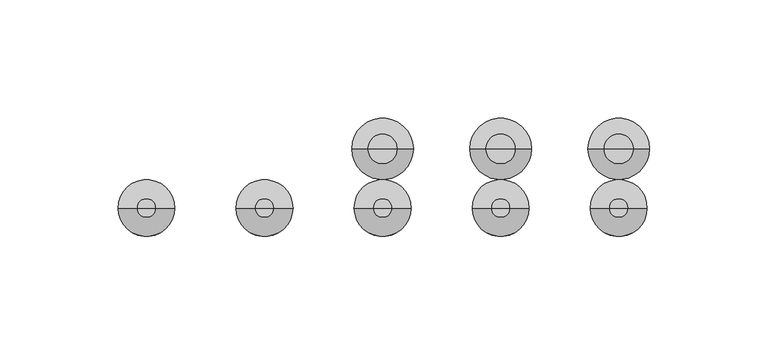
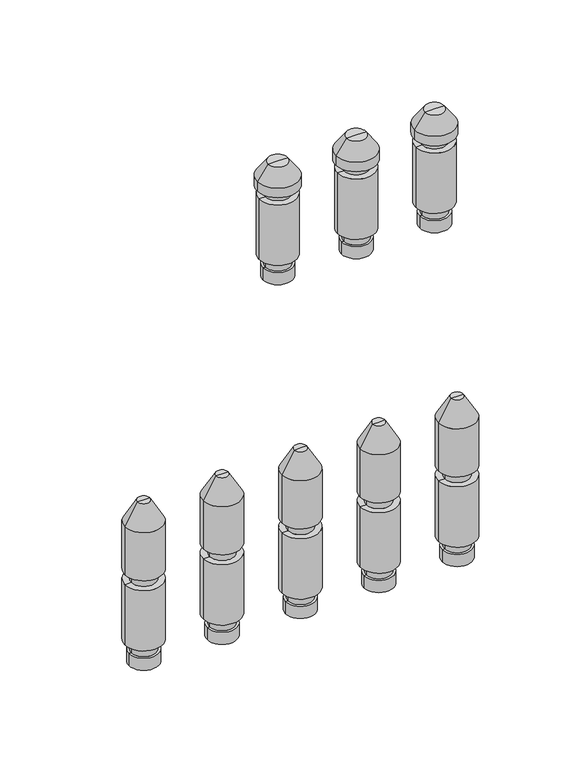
"""IFC4 building model written with IfcOpenShell, lengths in millimetres: valve geometry."""

from ifc_helpers import new_model, si_unit, frame, origin, place, context, project, spatial, polyline, circle_curve, source, transform, mapped, element, save
from ifc_brep_helpers import plane_surface, cylinder_surface, revolved_surface, advanced_brep


def valve_d1a48dd4(model_context):
    return source(origin(), model_context, "Body", "AdvancedBrep", [
        advanced_brep(
        [(328.5, 0.0, -35.11267), (347.5, 0.0, -35.11267), (338.0, 0.0, -35.11267), (328.5, 0.0, -27.0369646), (347.5, 0.0, -27.0369646), (330.0, 0.0, -27.0369646), (346.0, 0.0, -27.0369646), (330.0, 0.0, -20.330253), (346.0, 0.0, -20.330253), (326.0, 0.0, -20.330253), (350.0, 0.0, -20.330253), (326.0, 0.0, 20.330253), (350.0, 0.0, 20.330253), (330.0, 0.0, 20.330253), (346.0, 0.0, 20.330253), (330.0, 0.0, 27.0474786), (346.0, 0.0, 27.0474786), (326.0, 0.0, 27.0474786), (350.0, 0.0, 27.0474786), (326.0, 0.0, 59.4084325), (350.0, 0.0, 59.4084325), (334.0, 0.0, 73.264839), (342.0, 0.0, 73.264839), (338.0, 0.0, 73.264839)],
        [
            (0, 1, circle_curve(frame((338.0, 0.0, -35.11267), z_axis=(0.0, 0.0, -1.0), x_axis=(1.0, 0.0, 0.0)), 9.5)),
            (1, 2),
            (2, 0),
            (1, 0, circle_curve(frame((338.0, 0.0, -35.11267), z_axis=(0.0, 0.0, -1.0), x_axis=(1.0, 0.0, 0.0)), 9.5)),
            (3, 4, circle_curve(frame((338.0, 0.0, -27.0369646), z_axis=(0.0, 0.0, -1.0), x_axis=(1.0, 0.0, 0.0)), 9.5)),
            (4, 1),
            (0, 3),
            (4, 3, circle_curve(frame((338.0, 0.0, -27.0369646), z_axis=(0.0, 0.0, -1.0), x_axis=(1.0, 0.0, 0.0)), 9.5)),
            (5, 6, circle_curve(frame((338.0, 0.0, -27.0369646), z_axis=(0.0, 0.0, -1.0), x_axis=(1.0, 0.0, 0.0)), 8.0)),
            (6, 4),
            (3, 5),
            (6, 5, circle_curve(frame((338.0, 0.0, -27.0369646), z_axis=(0.0, 0.0, -1.0), x_axis=(1.0, 0.0, 0.0)), 8.0)),
            (7, 8, circle_curve(frame((338.0, 0.0, -20.330253), z_axis=(0.0, 0.0, -1.0), x_axis=(1.0, 0.0, 0.0)), 8.0)),
            (8, 6),
            (5, 7),
            (8, 7, circle_curve(frame((338.0, 0.0, -20.330253), z_axis=(0.0, 0.0, -1.0), x_axis=(1.0, 0.0, 0.0)), 8.0)),
            (9, 10, circle_curve(frame((338.0, 0.0, -20.330253), z_axis=(0.0, 0.0, -1.0), x_axis=(1.0, 0.0, 0.0)), 12.0)),
            (10, 8),
            (7, 9),
            (10, 9, circle_curve(frame((338.0, 0.0, -20.330253), z_axis=(0.0, 0.0, -1.0), x_axis=(1.0, 0.0, 0.0)), 12.0)),
            (11, 12, circle_curve(frame((338.0, 0.0, 20.330253), z_axis=(0.0, 0.0, -1.0), x_axis=(1.0, 0.0, 0.0)), 12.0)),
            (12, 10),
            (9, 11),
            (12, 11, circle_curve(frame((338.0, 0.0, 20.330253), z_axis=(0.0, 0.0, -1.0), x_axis=(1.0, 0.0, 0.0)), 12.0)),
            (13, 14, circle_curve(frame((338.0, 0.0, 20.330253), z_axis=(0.0, 0.0, -1.0), x_axis=(1.0, 0.0, 0.0)), 8.0)),
            (14, 12),
            (11, 13),
            (14, 13, circle_curve(frame((338.0, 0.0, 20.330253), z_axis=(0.0, 0.0, -1.0), x_axis=(1.0, 0.0, 0.0)), 8.0)),
            (15, 16, circle_curve(frame((338.0, 0.0, 27.0474786), z_axis=(0.0, 0.0, -1.0), x_axis=(1.0, 0.0, 0.0)), 8.0)),
            (16, 14),
            (13, 15),
            (16, 15, circle_curve(frame((338.0, 0.0, 27.0474786), z_axis=(0.0, 0.0, -1.0), x_axis=(1.0, 0.0, 0.0)), 8.0)),
            (17, 18, circle_curve(frame((338.0, 0.0, 27.0474786), z_axis=(0.0, 0.0, -1.0), x_axis=(1.0, 0.0, 0.0)), 12.0)),
            (18, 16),
            (15, 17),
            (18, 17, circle_curve(frame((338.0, 0.0, 27.0474786), z_axis=(0.0, 0.0, -1.0), x_axis=(1.0, 0.0, 0.0)), 12.0)),
            (19, 20, circle_curve(frame((338.0, 0.0, 59.4084325), z_axis=(0.0, 0.0, -1.0), x_axis=(1.0, 0.0, 0.0)), 12.0)),
            (20, 18),
            (17, 19),
            (20, 19, circle_curve(frame((338.0, 0.0, 59.4084325), z_axis=(0.0, 0.0, -1.0), x_axis=(1.0, 0.0, 0.0)), 12.0)),
            (21, 22, circle_curve(frame((338.0, 0.0, 73.264839), z_axis=(0.0, 0.0, -1.0), x_axis=(1.0, 0.0, 0.0)), 4.0)),
            (22, 20),
            (19, 21),
            (22, 21, circle_curve(frame((338.0, 0.0, 73.264839), z_axis=(0.0, 0.0, -1.0), x_axis=(1.0, 0.0, 0.0)), 4.0)),
            (23, 22),
            (21, 23),
        ],
        [
            plane_surface(frame((338.0, 0.0, -35.11267), z_axis=(0.0, 0.0, -1.0), x_axis=(1.0, 0.0, 0.0))),
            cylinder_surface(frame((338.0, 0.0, 58.264839), z_axis=(0.0, 0.0, 1.0), x_axis=(1.0, 0.0, 0.0)), 9.5),
            plane_surface(frame((338.0, 0.0, -27.0369646), z_axis=(0.0, 0.0, 1.0), x_axis=(1.0, 0.0, 0.0))),
            cylinder_surface(frame((338.0, 0.0, 58.264839), z_axis=(0.0, 0.0, 1.0), x_axis=(1.0, 0.0, 0.0)), 8.0),
            plane_surface(frame((338.0, 0.0, -20.330253), z_axis=(0.0, 0.0, -1.0), x_axis=(1.0, 0.0, 0.0))),
            cylinder_surface(frame((338.0, 0.0, 58.264839), z_axis=(0.0, 0.0, 1.0), x_axis=(1.0, 0.0, 0.0)), 12.0),
            plane_surface(frame((338.0, 0.0, 20.330253), z_axis=(0.0, 0.0, 1.0), x_axis=(1.0, 0.0, 0.0))),
            plane_surface(frame((338.0, 0.0, 27.0474786), z_axis=(0.0, 0.0, -1.0), x_axis=(1.0, 0.0, 0.0))),
            revolved_surface(polyline([(350.0, 0.0, 59.4084325), (342.0, 0.0, 73.264839)]), (338.0, 0.0, 58.264839), (0.0, 0.0, 1.0)),
            plane_surface(frame((338.0, 0.0, 73.264839), z_axis=(0.0, 0.0, 1.0), x_axis=(1.0, 0.0, 0.0))),
        ],
        [
            (0, [[1, 2, 3]]),
            (0, [[4, -3, -2]]),
            (1, [[5, 6, -1, 7]]),
            (1, [[8, -7, -4, -6]]),
            (2, [[9, 10, -5, 11]]),
            (2, [[12, -11, -8, -10]]),
            (3, [[13, 14, -9, 15]]),
            (3, [[16, -15, -12, -14]]),
            (4, [[17, 18, -13, 19]]),
            (4, [[20, -19, -16, -18]]),
            (5, [[21, 22, -17, 23]]),
            (5, [[24, -23, -20, -22]]),
            (6, [[25, 26, -21, 27]]),
            (6, [[28, -27, -24, -26]]),
            (3, [[29, 30, -25, 31]]),
            (3, [[32, -31, -28, -30]]),
            (7, [[33, 34, -29, 35]]),
            (7, [[36, -35, -32, -34]]),
            (5, [[37, 38, -33, 39]]),
            (5, [[40, -39, -36, -38]]),
            (8, [[41, 42, -37, 43]]),
            (8, [[44, -43, -40, -42]]),
            (9, [[45, -41, 46]]),
            (9, [[-46, -44, -45]]),
        ],
    ),
        advanced_brep(
        [(328.5, 25.0, 174.88733), (347.5, 25.0, 174.88733), (338.0, 25.0, 174.88733), (328.5, 25.0, 182.9630354), (347.5, 25.0, 182.9630354), (330.0, 25.0, 182.9630354), (346.0, 25.0, 182.9630354), (330.0, 25.0, 189.669747), (346.0, 25.0, 189.669747), (326.0, 25.0, 189.669747), (350.0, 25.0, 189.669747), (326.0, 25.0, 230.330253), (350.0, 25.0, 230.330253), (330.0, 25.0, 230.330253), (346.0, 25.0, 230.330253), (330.0, 25.0, 236.0474786), (346.0, 25.0, 236.0474786), (325.0, 25.0, 236.0474786), (351.0, 25.0, 236.0474786), (325.0, 25.0, 242.337955), (351.0, 25.0, 242.337955), (331.6551779, 25.0, 251.842534), (344.3448221, 25.0, 251.842534), (338.0, 25.0, 251.842534)],
        [
            (0, 1, circle_curve(frame((338.0, 25.0, 174.88733), z_axis=(0.0, 0.0, -1.0), x_axis=(1.0, 0.0, 0.0)), 9.5)),
            (1, 2),
            (2, 0),
            (1, 0, circle_curve(frame((338.0, 25.0, 174.88733), z_axis=(0.0, 0.0, -1.0), x_axis=(1.0, 0.0, 0.0)), 9.5)),
            (3, 4, circle_curve(frame((338.0, 25.0, 182.9630354), z_axis=(0.0, 0.0, -1.0), x_axis=(1.0, 0.0, 0.0)), 9.5)),
            (4, 1),
            (0, 3),
            (4, 3, circle_curve(frame((338.0, 25.0, 182.9630354), z_axis=(0.0, 0.0, -1.0), x_axis=(1.0, 0.0, 0.0)), 9.5)),
            (5, 6, circle_curve(frame((338.0, 25.0, 182.9630354), z_axis=(0.0, 0.0, -1.0), x_axis=(1.0, 0.0, 0.0)), 8.0)),
            (6, 4),
            (3, 5),
            (6, 5, circle_curve(frame((338.0, 25.0, 182.9630354), z_axis=(0.0, 0.0, -1.0), x_axis=(1.0, 0.0, 0.0)), 8.0)),
            (7, 8, circle_curve(frame((338.0, 25.0, 189.669747), z_axis=(0.0, 0.0, -1.0), x_axis=(1.0, 0.0, 0.0)), 8.0)),
            (8, 6),
            (5, 7),
            (8, 7, circle_curve(frame((338.0, 25.0, 189.669747), z_axis=(0.0, 0.0, -1.0), x_axis=(1.0, 0.0, 0.0)), 8.0)),
            (9, 10, circle_curve(frame((338.0, 25.0, 189.669747), z_axis=(0.0, 0.0, -1.0), x_axis=(1.0, 0.0, 0.0)), 12.0)),
            (10, 8),
            (7, 9),
            (10, 9, circle_curve(frame((338.0, 25.0, 189.669747), z_axis=(0.0, 0.0, -1.0), x_axis=(1.0, 0.0, 0.0)), 12.0)),
            (11, 12, circle_curve(frame((338.0, 25.0, 230.330253), z_axis=(0.0, 0.0, -1.0), x_axis=(1.0, 0.0, 0.0)), 12.0)),
            (12, 10),
            (9, 11),
            (12, 11, circle_curve(frame((338.0, 25.0, 230.330253), z_axis=(0.0, 0.0, -1.0), x_axis=(1.0, 0.0, 0.0)), 12.0)),
            (13, 14, circle_curve(frame((338.0, 25.0, 230.330253), z_axis=(0.0, 0.0, -1.0), x_axis=(1.0, 0.0, 0.0)), 8.0)),
            (14, 12),
            (11, 13),
            (14, 13, circle_curve(frame((338.0, 25.0, 230.330253), z_axis=(0.0, 0.0, -1.0), x_axis=(1.0, 0.0, 0.0)), 8.0)),
            (15, 16, circle_curve(frame((338.0, 25.0, 236.0474786), z_axis=(0.0, 0.0, -1.0), x_axis=(1.0, 0.0, 0.0)), 8.0)),
            (16, 14),
            (13, 15),
            (16, 15, circle_curve(frame((338.0, 25.0, 236.0474786), z_axis=(0.0, 0.0, -1.0), x_axis=(1.0, 0.0, 0.0)), 8.0)),
            (17, 18, circle_curve(frame((338.0, 25.0, 236.0474786), z_axis=(0.0, 0.0, -1.0), x_axis=(1.0, 0.0, 0.0)), 13.0)),
            (18, 16),
            (15, 17),
            (18, 17, circle_curve(frame((338.0, 25.0, 236.0474786), z_axis=(0.0, 0.0, -1.0), x_axis=(1.0, 0.0, 0.0)), 13.0)),
            (19, 20, circle_curve(frame((338.0, 25.0, 242.337955), z_axis=(0.0, 0.0, -1.0), x_axis=(1.0, 0.0, 0.0)), 13.0)),
            (20, 18),
            (17, 19),
            (20, 19, circle_curve(frame((338.0, 25.0, 242.337955), z_axis=(0.0, 0.0, -1.0), x_axis=(1.0, 0.0, 0.0)), 13.0)),
            (21, 22, circle_curve(frame((338.0, 25.0, 251.842534), z_axis=(0.0, 0.0, -1.0), x_axis=(1.0, 0.0, 0.0)), 6.3448221)),
            (22, 20),
            (19, 21),
            (22, 21, circle_curve(frame((338.0, 25.0, 251.842534), z_axis=(0.0, 0.0, -1.0), x_axis=(1.0, 0.0, 0.0)), 6.3448221)),
            (23, 22),
            (21, 23),
        ],
        [
            plane_surface(frame((338.0, 25.0, 174.88733), z_axis=(0.0, 0.0, -1.0), x_axis=(1.0, 0.0, 0.0))),
            cylinder_surface(frame((338.0, 25.0, 247.7026565), z_axis=(0.0, 0.0, 1.0), x_axis=(1.0, 0.0, 0.0)), 9.5),
            plane_surface(frame((338.0, 25.0, 182.9630354), z_axis=(0.0, 0.0, 1.0), x_axis=(1.0, 0.0, 0.0))),
            cylinder_surface(frame((338.0, 25.0, 247.7026565), z_axis=(0.0, 0.0, 1.0), x_axis=(1.0, 0.0, 0.0)), 8.0),
            plane_surface(frame((338.0, 25.0, 189.669747), z_axis=(0.0, 0.0, -1.0), x_axis=(1.0, 0.0, 0.0))),
            cylinder_surface(frame((338.0, 25.0, 247.7026565), z_axis=(0.0, 0.0, 1.0), x_axis=(1.0, 0.0, 0.0)), 12.0),
            plane_surface(frame((338.0, 25.0, 230.330253), z_axis=(0.0, 0.0, 1.0), x_axis=(1.0, 0.0, 0.0))),
            plane_surface(frame((338.0, 25.0, 236.0474786), z_axis=(0.0, 0.0, -1.0), x_axis=(1.0, 0.0, 0.0))),
            cylinder_surface(frame((338.0, 25.0, 247.7026565), z_axis=(0.0, 0.0, 1.0), x_axis=(1.0, 0.0, 0.0)), 13.0),
            revolved_surface(polyline([(351.0, 25.0, 242.337955), (344.3448221, 25.0, 251.842534)]), (338.0, 25.0, 247.7026565), (0.0, 0.0, 1.0)),
            plane_surface(frame((338.0, 25.0, 251.842534), z_axis=(0.0, 0.0, 1.0), x_axis=(1.0, 0.0, 0.0))),
        ],
        [
            (0, [[1, 2, 3]]),
            (0, [[4, -3, -2]]),
            (1, [[5, 6, -1, 7]]),
            (1, [[8, -7, -4, -6]]),
            (2, [[9, 10, -5, 11]]),
            (2, [[12, -11, -8, -10]]),
            (3, [[13, 14, -9, 15]]),
            (3, [[16, -15, -12, -14]]),
            (4, [[17, 18, -13, 19]]),
            (4, [[20, -19, -16, -18]]),
            (5, [[21, 22, -17, 23]]),
            (5, [[24, -23, -20, -22]]),
            (6, [[25, 26, -21, 27]]),
            (6, [[28, -27, -24, -26]]),
            (3, [[29, 30, -25, 31]]),
            (3, [[32, -31, -28, -30]]),
            (7, [[33, 34, -29, 35]]),
            (7, [[36, -35, -32, -34]]),
            (8, [[37, 38, -33, 39]]),
            (8, [[40, -39, -36, -38]]),
            (9, [[41, 42, -37, 43]]),
            (9, [[44, -43, -40, -42]]),
            (10, [[45, -41, 46]]),
            (10, [[-46, -44, -45]]),
        ],
    ),
        advanced_brep(
        [(278.5, 0.0, -35.11267), (297.5, 0.0, -35.11267), (288.0, 0.0, -35.11267), (278.5, 0.0, -27.0369646), (297.5, 0.0, -27.0369646), (280.0, 0.0, -27.0369646), (296.0, 0.0, -27.0369646), (280.0, 0.0, -20.330253), (296.0, 0.0, -20.330253), (276.0, 0.0, -20.330253), (300.0, 0.0, -20.330253), (276.0, 0.0, 20.330253), (300.0, 0.0, 20.330253), (280.0, 0.0, 20.330253), (296.0, 0.0, 20.330253), (280.0, 0.0, 27.0474786), (296.0, 0.0, 27.0474786), (276.0, 0.0, 27.0474786), (300.0, 0.0, 27.0474786), (276.0, 0.0, 59.4084325), (300.0, 0.0, 59.4084325), (284.0, 0.0, 73.264839), (292.0, 0.0, 73.264839), (288.0, 0.0, 73.264839)],
        [
            (0, 1, circle_curve(frame((288.0, 0.0, -35.11267), z_axis=(0.0, 0.0, -1.0), x_axis=(1.0, 0.0, 0.0)), 9.5)),
            (1, 2),
            (2, 0),
            (1, 0, circle_curve(frame((288.0, 0.0, -35.11267), z_axis=(0.0, 0.0, -1.0), x_axis=(1.0, 0.0, 0.0)), 9.5)),
            (3, 4, circle_curve(frame((288.0, 0.0, -27.0369646), z_axis=(0.0, 0.0, -1.0), x_axis=(1.0, 0.0, 0.0)), 9.5)),
            (4, 1),
            (0, 3),
            (4, 3, circle_curve(frame((288.0, 0.0, -27.0369646), z_axis=(0.0, 0.0, -1.0), x_axis=(1.0, 0.0, 0.0)), 9.5)),
            (5, 6, circle_curve(frame((288.0, 0.0, -27.0369646), z_axis=(0.0, 0.0, -1.0), x_axis=(1.0, 0.0, 0.0)), 8.0)),
            (6, 4),
            (3, 5),
            (6, 5, circle_curve(frame((288.0, 0.0, -27.0369646), z_axis=(0.0, 0.0, -1.0), x_axis=(1.0, 0.0, 0.0)), 8.0)),
            (7, 8, circle_curve(frame((288.0, 0.0, -20.330253), z_axis=(0.0, 0.0, -1.0), x_axis=(1.0, 0.0, 0.0)), 8.0)),
            (8, 6),
            (5, 7),
            (8, 7, circle_curve(frame((288.0, 0.0, -20.330253), z_axis=(0.0, 0.0, -1.0), x_axis=(1.0, 0.0, 0.0)), 8.0)),
            (9, 10, circle_curve(frame((288.0, 0.0, -20.330253), z_axis=(0.0, 0.0, -1.0), x_axis=(1.0, 0.0, 0.0)), 12.0)),
            (10, 8),
            (7, 9),
            (10, 9, circle_curve(frame((288.0, 0.0, -20.330253), z_axis=(0.0, 0.0, -1.0), x_axis=(1.0, 0.0, 0.0)), 12.0)),
            (11, 12, circle_curve(frame((288.0, 0.0, 20.330253), z_axis=(0.0, 0.0, -1.0), x_axis=(1.0, 0.0, 0.0)), 12.0)),
            (12, 10),
            (9, 11),
            (12, 11, circle_curve(frame((288.0, 0.0, 20.330253), z_axis=(0.0, 0.0, -1.0), x_axis=(1.0, 0.0, 0.0)), 12.0)),
            (13, 14, circle_curve(frame((288.0, 0.0, 20.330253), z_axis=(0.0, 0.0, -1.0), x_axis=(1.0, 0.0, 0.0)), 8.0)),
            (14, 12),
            (11, 13),
            (14, 13, circle_curve(frame((288.0, 0.0, 20.330253), z_axis=(0.0, 0.0, -1.0), x_axis=(1.0, 0.0, 0.0)), 8.0)),
            (15, 16, circle_curve(frame((288.0, 0.0, 27.0474786), z_axis=(0.0, 0.0, -1.0), x_axis=(1.0, 0.0, 0.0)), 8.0)),
            (16, 14),
            (13, 15),
            (16, 15, circle_curve(frame((288.0, 0.0, 27.0474786), z_axis=(0.0, 0.0, -1.0), x_axis=(1.0, 0.0, 0.0)), 8.0)),
            (17, 18, circle_curve(frame((288.0, 0.0, 27.0474786), z_axis=(0.0, 0.0, -1.0), x_axis=(1.0, 0.0, 0.0)), 12.0)),
            (18, 16),
            (15, 17),
            (18, 17, circle_curve(frame((288.0, 0.0, 27.0474786), z_axis=(0.0, 0.0, -1.0), x_axis=(1.0, 0.0, 0.0)), 12.0)),
            (19, 20, circle_curve(frame((288.0, 0.0, 59.4084325), z_axis=(0.0, 0.0, -1.0), x_axis=(1.0, 0.0, 0.0)), 12.0)),
            (20, 18),
            (17, 19),
            (20, 19, circle_curve(frame((288.0, 0.0, 59.4084325), z_axis=(0.0, 0.0, -1.0), x_axis=(1.0, 0.0, 0.0)), 12.0)),
            (21, 22, circle_curve(frame((288.0, 0.0, 73.264839), z_axis=(0.0, 0.0, -1.0), x_axis=(1.0, 0.0, 0.0)), 4.0)),
            (22, 20),
            (19, 21),
            (22, 21, circle_curve(frame((288.0, 0.0, 73.264839), z_axis=(0.0, 0.0, -1.0), x_axis=(1.0, 0.0, 0.0)), 4.0)),
            (23, 22),
            (21, 23),
        ],
        [
            plane_surface(frame((288.0, 0.0, -35.11267), z_axis=(0.0, 0.0, -1.0), x_axis=(1.0, 0.0, 0.0))),
            cylinder_surface(frame((288.0, 0.0, 58.264839), z_axis=(0.0, 0.0, 1.0), x_axis=(1.0, 0.0, 0.0)), 9.5),
            plane_surface(frame((288.0, 0.0, -27.0369646), z_axis=(0.0, 0.0, 1.0), x_axis=(1.0, 0.0, 0.0))),
            cylinder_surface(frame((288.0, 0.0, 58.264839), z_axis=(0.0, 0.0, 1.0), x_axis=(1.0, 0.0, 0.0)), 8.0),
            plane_surface(frame((288.0, 0.0, -20.330253), z_axis=(0.0, 0.0, -1.0), x_axis=(1.0, 0.0, 0.0))),
            cylinder_surface(frame((288.0, 0.0, 58.264839), z_axis=(0.0, 0.0, 1.0), x_axis=(1.0, 0.0, 0.0)), 12.0),
            plane_surface(frame((288.0, 0.0, 20.330253), z_axis=(0.0, 0.0, 1.0), x_axis=(1.0, 0.0, 0.0))),
            plane_surface(frame((288.0, 0.0, 27.0474786), z_axis=(0.0, 0.0, -1.0), x_axis=(1.0, 0.0, 0.0))),
            revolved_surface(polyline([(300.0, 0.0, 59.4084325), (292.0, 0.0, 73.264839)]), (288.0, 0.0, 58.264839), (0.0, 0.0, 1.0)),
            plane_surface(frame((288.0, 0.0, 73.264839), z_axis=(0.0, 0.0, 1.0), x_axis=(1.0, 0.0, 0.0))),
        ],
        [
            (0, [[1, 2, 3]]),
            (0, [[4, -3, -2]]),
            (1, [[5, 6, -1, 7]]),
            (1, [[8, -7, -4, -6]]),
            (2, [[9, 10, -5, 11]]),
            (2, [[12, -11, -8, -10]]),
            (3, [[13, 14, -9, 15]]),
            (3, [[16, -15, -12, -14]]),
            (4, [[17, 18, -13, 19]]),
            (4, [[20, -19, -16, -18]]),
            (5, [[21, 22, -17, 23]]),
            (5, [[24, -23, -20, -22]]),
            (6, [[25, 26, -21, 27]]),
            (6, [[28, -27, -24, -26]]),
            (3, [[29, 30, -25, 31]]),
            (3, [[32, -31, -28, -30]]),
            (7, [[33, 34, -29, 35]]),
            (7, [[36, -35, -32, -34]]),
            (5, [[37, 38, -33, 39]]),
            (5, [[40, -39, -36, -38]]),
            (8, [[41, 42, -37, 43]]),
            (8, [[44, -43, -40, -42]]),
            (9, [[45, -41, 46]]),
            (9, [[-46, -44, -45]]),
        ],
    ),
        advanced_brep(
        [(228.5, 0.0, -35.11267), (247.5, 0.0, -35.11267), (238.0, 0.0, -35.11267), (228.5, 0.0, -27.0369646), (247.5, 0.0, -27.0369646), (230.0, 0.0, -27.0369646), (246.0, 0.0, -27.0369646), (230.0, 0.0, -20.330253), (246.0, 0.0, -20.330253), (226.0, 0.0, -20.330253), (250.0, 0.0, -20.330253), (226.0, 0.0, 20.330253), (250.0, 0.0, 20.330253), (230.0, 0.0, 20.330253), (246.0, 0.0, 20.330253), (230.0, 0.0, 27.0474786), (246.0, 0.0, 27.0474786), (226.0, 0.0, 27.0474786), (250.0, 0.0, 27.0474786), (226.0, 0.0, 59.4084325), (250.0, 0.0, 59.4084325), (234.0, 0.0, 73.264839), (242.0, 0.0, 73.264839), (238.0, 0.0, 73.264839)],
        [
            (0, 1, circle_curve(frame((238.0, 0.0, -35.11267), z_axis=(0.0, 0.0, -1.0), x_axis=(1.0, 0.0, 0.0)), 9.5)),
            (1, 2),
            (2, 0),
            (1, 0, circle_curve(frame((238.0, 0.0, -35.11267), z_axis=(0.0, 0.0, -1.0), x_axis=(1.0, 0.0, 0.0)), 9.5)),
            (3, 4, circle_curve(frame((238.0, 0.0, -27.0369646), z_axis=(0.0, 0.0, -1.0), x_axis=(1.0, 0.0, 0.0)), 9.5)),
            (4, 1),
            (0, 3),
            (4, 3, circle_curve(frame((238.0, 0.0, -27.0369646), z_axis=(0.0, 0.0, -1.0), x_axis=(1.0, 0.0, 0.0)), 9.5)),
            (5, 6, circle_curve(frame((238.0, 0.0, -27.0369646), z_axis=(0.0, 0.0, -1.0), x_axis=(1.0, 0.0, 0.0)), 8.0)),
            (6, 4),
            (3, 5),
            (6, 5, circle_curve(frame((238.0, 0.0, -27.0369646), z_axis=(0.0, 0.0, -1.0), x_axis=(1.0, 0.0, 0.0)), 8.0)),
            (7, 8, circle_curve(frame((238.0, 0.0, -20.330253), z_axis=(0.0, 0.0, -1.0), x_axis=(1.0, 0.0, 0.0)), 8.0)),
            (8, 6),
            (5, 7),
            (8, 7, circle_curve(frame((238.0, 0.0, -20.330253), z_axis=(0.0, 0.0, -1.0), x_axis=(1.0, 0.0, 0.0)), 8.0)),
            (9, 10, circle_curve(frame((238.0, 0.0, -20.330253), z_axis=(0.0, 0.0, -1.0), x_axis=(1.0, 0.0, 0.0)), 12.0)),
            (10, 8),
            (7, 9),
            (10, 9, circle_curve(frame((238.0, 0.0, -20.330253), z_axis=(0.0, 0.0, -1.0), x_axis=(1.0, 0.0, 0.0)), 12.0)),
            (11, 12, circle_curve(frame((238.0, 0.0, 20.330253), z_axis=(0.0, 0.0, -1.0), x_axis=(1.0, 0.0, 0.0)), 12.0)),
            (12, 10),
            (9, 11),
            (12, 11, circle_curve(frame((238.0, 0.0, 20.330253), z_axis=(0.0, 0.0, -1.0), x_axis=(1.0, 0.0, 0.0)), 12.0)),
            (13, 14, circle_curve(frame((238.0, 0.0, 20.330253), z_axis=(0.0, 0.0, -1.0), x_axis=(1.0, 0.0, 0.0)), 8.0)),
            (14, 12),
            (11, 13),
            (14, 13, circle_curve(frame((238.0, 0.0, 20.330253), z_axis=(0.0, 0.0, -1.0), x_axis=(1.0, 0.0, 0.0)), 8.0)),
            (15, 16, circle_curve(frame((238.0, 0.0, 27.0474786), z_axis=(0.0, 0.0, -1.0), x_axis=(1.0, 0.0, 0.0)), 8.0)),
            (16, 14),
            (13, 15),
            (16, 15, circle_curve(frame((238.0, 0.0, 27.0474786), z_axis=(0.0, 0.0, -1.0), x_axis=(1.0, 0.0, 0.0)), 8.0)),
            (17, 18, circle_curve(frame((238.0, 0.0, 27.0474786), z_axis=(0.0, 0.0, -1.0), x_axis=(1.0, 0.0, 0.0)), 12.0)),
            (18, 16),
            (15, 17),
            (18, 17, circle_curve(frame((238.0, 0.0, 27.0474786), z_axis=(0.0, 0.0, -1.0), x_axis=(1.0, 0.0, 0.0)), 12.0)),
            (19, 20, circle_curve(frame((238.0, 0.0, 59.4084325), z_axis=(0.0, 0.0, -1.0), x_axis=(1.0, 0.0, 0.0)), 12.0)),
            (20, 18),
            (17, 19),
            (20, 19, circle_curve(frame((238.0, 0.0, 59.4084325), z_axis=(0.0, 0.0, -1.0), x_axis=(1.0, 0.0, 0.0)), 12.0)),
            (21, 22, circle_curve(frame((238.0, 0.0, 73.264839), z_axis=(0.0, 0.0, -1.0), x_axis=(1.0, 0.0, 0.0)), 4.0)),
            (22, 20),
            (19, 21),
            (22, 21, circle_curve(frame((238.0, 0.0, 73.264839), z_axis=(0.0, 0.0, -1.0), x_axis=(1.0, 0.0, 0.0)), 4.0)),
            (23, 22),
            (21, 23),
        ],
        [
            plane_surface(frame((238.0, 0.0, -35.11267), z_axis=(0.0, 0.0, -1.0), x_axis=(1.0, 0.0, 0.0))),
            cylinder_surface(frame((238.0, 0.0, 58.264839), z_axis=(0.0, 0.0, 1.0), x_axis=(1.0, 0.0, 0.0)), 9.5),
            plane_surface(frame((238.0, 0.0, -27.0369646), z_axis=(0.0, 0.0, 1.0), x_axis=(1.0, 0.0, 0.0))),
            cylinder_surface(frame((238.0, 0.0, 58.264839), z_axis=(0.0, 0.0, 1.0), x_axis=(1.0, 0.0, 0.0)), 8.0),
            plane_surface(frame((238.0, 0.0, -20.330253), z_axis=(0.0, 0.0, -1.0), x_axis=(1.0, 0.0, 0.0))),
            cylinder_surface(frame((238.0, 0.0, 58.264839), z_axis=(0.0, 0.0, 1.0), x_axis=(1.0, 0.0, 0.0)), 12.0),
            plane_surface(frame((238.0, 0.0, 20.330253), z_axis=(0.0, 0.0, 1.0), x_axis=(1.0, 0.0, 0.0))),
            plane_surface(frame((238.0, 0.0, 27.0474786), z_axis=(0.0, 0.0, -1.0), x_axis=(1.0, 0.0, 0.0))),
            revolved_surface(polyline([(250.0, 0.0, 59.4084325), (242.0, 0.0, 73.264839)]), (238.0, 0.0, 58.264839), (0.0, 0.0, 1.0)),
            plane_surface(frame((238.0, 0.0, 73.264839), z_axis=(0.0, 0.0, 1.0), x_axis=(1.0, 0.0, 0.0))),
        ],
        [
            (0, [[1, 2, 3]]),
            (0, [[4, -3, -2]]),
            (1, [[5, 6, -1, 7]]),
            (1, [[8, -7, -4, -6]]),
            (2, [[9, 10, -5, 11]]),
            (2, [[12, -11, -8, -10]]),
            (3, [[13, 14, -9, 15]]),
            (3, [[16, -15, -12, -14]]),
            (4, [[17, 18, -13, 19]]),
            (4, [[20, -19, -16, -18]]),
            (5, [[21, 22, -17, 23]]),
            (5, [[24, -23, -20, -22]]),
            (6, [[25, 26, -21, 27]]),
            (6, [[28, -27, -24, -26]]),
            (3, [[29, 30, -25, 31]]),
            (3, [[32, -31, -28, -30]]),
            (7, [[33, 34, -29, 35]]),
            (7, [[36, -35, -32, -34]]),
            (5, [[37, 38, -33, 39]]),
            (5, [[40, -39, -36, -38]]),
            (8, [[41, 42, -37, 43]]),
            (8, [[44, -43, -40, -42]]),
            (9, [[45, -41, 46]]),
            (9, [[-46, -44, -45]]),
        ],
    ),
        advanced_brep(
        [(178.5, 0.0, -35.11267), (197.5, 0.0, -35.11267), (188.0, 0.0, -35.11267), (178.5, 0.0, -27.0369646), (197.5, 0.0, -27.0369646), (180.0, 0.0, -27.0369646), (196.0, 0.0, -27.0369646), (180.0, 0.0, -20.330253), (196.0, 0.0, -20.330253), (176.0, 0.0, -20.330253), (200.0, 0.0, -20.330253), (176.0, 0.0, 20.330253), (200.0, 0.0, 20.330253), (180.0, 0.0, 20.330253), (196.0, 0.0, 20.330253), (180.0, 0.0, 27.0474786), (196.0, 0.0, 27.0474786), (176.0, 0.0, 27.0474786), (200.0, 0.0, 27.0474786), (176.0, 0.0, 59.4084325), (200.0, 0.0, 59.4084325), (184.0, 0.0, 73.264839), (192.0, 0.0, 73.264839), (188.0, 0.0, 73.264839)],
        [
            (0, 1, circle_curve(frame((188.0, 0.0, -35.11267), z_axis=(0.0, 0.0, -1.0), x_axis=(1.0, 0.0, 0.0)), 9.5)),
            (1, 2),
            (2, 0),
            (1, 0, circle_curve(frame((188.0, 0.0, -35.11267), z_axis=(0.0, 0.0, -1.0), x_axis=(1.0, 0.0, 0.0)), 9.5)),
            (3, 4, circle_curve(frame((188.0, 0.0, -27.0369646), z_axis=(0.0, 0.0, -1.0), x_axis=(1.0, 0.0, 0.0)), 9.5)),
            (4, 1),
            (0, 3),
            (4, 3, circle_curve(frame((188.0, 0.0, -27.0369646), z_axis=(0.0, 0.0, -1.0), x_axis=(1.0, 0.0, 0.0)), 9.5)),
            (5, 6, circle_curve(frame((188.0, 0.0, -27.0369646), z_axis=(0.0, 0.0, -1.0), x_axis=(1.0, 0.0, 0.0)), 8.0)),
            (6, 4),
            (3, 5),
            (6, 5, circle_curve(frame((188.0, 0.0, -27.0369646), z_axis=(0.0, 0.0, -1.0), x_axis=(1.0, 0.0, 0.0)), 8.0)),
            (7, 8, circle_curve(frame((188.0, 0.0, -20.330253), z_axis=(0.0, 0.0, -1.0), x_axis=(1.0, 0.0, 0.0)), 8.0)),
            (8, 6),
            (5, 7),
            (8, 7, circle_curve(frame((188.0, 0.0, -20.330253), z_axis=(0.0, 0.0, -1.0), x_axis=(1.0, 0.0, 0.0)), 8.0)),
            (9, 10, circle_curve(frame((188.0, 0.0, -20.330253), z_axis=(0.0, 0.0, -1.0), x_axis=(1.0, 0.0, 0.0)), 12.0)),
            (10, 8),
            (7, 9),
            (10, 9, circle_curve(frame((188.0, 0.0, -20.330253), z_axis=(0.0, 0.0, -1.0), x_axis=(1.0, 0.0, 0.0)), 12.0)),
            (11, 12, circle_curve(frame((188.0, 0.0, 20.330253), z_axis=(0.0, 0.0, -1.0), x_axis=(1.0, 0.0, 0.0)), 12.0)),
            (12, 10),
            (9, 11),
            (12, 11, circle_curve(frame((188.0, 0.0, 20.330253), z_axis=(0.0, 0.0, -1.0), x_axis=(1.0, 0.0, 0.0)), 12.0)),
            (13, 14, circle_curve(frame((188.0, 0.0, 20.330253), z_axis=(0.0, 0.0, -1.0), x_axis=(1.0, 0.0, 0.0)), 8.0)),
            (14, 12),
            (11, 13),
            (14, 13, circle_curve(frame((188.0, 0.0, 20.330253), z_axis=(0.0, 0.0, -1.0), x_axis=(1.0, 0.0, 0.0)), 8.0)),
            (15, 16, circle_curve(frame((188.0, 0.0, 27.0474786), z_axis=(0.0, 0.0, -1.0), x_axis=(1.0, 0.0, 0.0)), 8.0)),
            (16, 14),
            (13, 15),
            (16, 15, circle_curve(frame((188.0, 0.0, 27.0474786), z_axis=(0.0, 0.0, -1.0), x_axis=(1.0, 0.0, 0.0)), 8.0)),
            (17, 18, circle_curve(frame((188.0, 0.0, 27.0474786), z_axis=(0.0, 0.0, -1.0), x_axis=(1.0, 0.0, 0.0)), 12.0)),
            (18, 16),
            (15, 17),
            (18, 17, circle_curve(frame((188.0, 0.0, 27.0474786), z_axis=(0.0, 0.0, -1.0), x_axis=(1.0, 0.0, 0.0)), 12.0)),
            (19, 20, circle_curve(frame((188.0, 0.0, 59.4084325), z_axis=(0.0, 0.0, -1.0), x_axis=(1.0, 0.0, 0.0)), 12.0)),
            (20, 18),
            (17, 19),
            (20, 19, circle_curve(frame((188.0, 0.0, 59.4084325), z_axis=(0.0, 0.0, -1.0), x_axis=(1.0, 0.0, 0.0)), 12.0)),
            (21, 22, circle_curve(frame((188.0, 0.0, 73.264839), z_axis=(0.0, 0.0, -1.0), x_axis=(1.0, 0.0, 0.0)), 4.0)),
            (22, 20),
            (19, 21),
            (22, 21, circle_curve(frame((188.0, 0.0, 73.264839), z_axis=(0.0, 0.0, -1.0), x_axis=(1.0, 0.0, 0.0)), 4.0)),
            (23, 22),
            (21, 23),
        ],
        [
            plane_surface(frame((188.0, 0.0, -35.11267), z_axis=(0.0, 0.0, -1.0), x_axis=(1.0, 0.0, 0.0))),
            cylinder_surface(frame((188.0, 0.0, 58.264839), z_axis=(0.0, 0.0, 1.0), x_axis=(1.0, 0.0, 0.0)), 9.5),
            plane_surface(frame((188.0, 0.0, -27.0369646), z_axis=(0.0, 0.0, 1.0), x_axis=(1.0, 0.0, 0.0))),
            cylinder_surface(frame((188.0, 0.0, 58.264839), z_axis=(0.0, 0.0, 1.0), x_axis=(1.0, 0.0, 0.0)), 8.0),
            plane_surface(frame((188.0, 0.0, -20.330253), z_axis=(0.0, 0.0, -1.0), x_axis=(1.0, 0.0, 0.0))),
            cylinder_surface(frame((188.0, 0.0, 58.264839), z_axis=(0.0, 0.0, 1.0), x_axis=(1.0, 0.0, 0.0)), 12.0),
            plane_surface(frame((188.0, 0.0, 20.330253), z_axis=(0.0, 0.0, 1.0), x_axis=(1.0, 0.0, 0.0))),
            plane_surface(frame((188.0, 0.0, 27.0474786), z_axis=(0.0, 0.0, -1.0), x_axis=(1.0, 0.0, 0.0))),
            revolved_surface(polyline([(200.0, 0.0, 59.4084325), (192.0, 0.0, 73.264839)]), (188.0, 0.0, 58.264839), (0.0, 0.0, 1.0)),
            plane_surface(frame((188.0, 0.0, 73.264839), z_axis=(0.0, 0.0, 1.0), x_axis=(1.0, 0.0, 0.0))),
        ],
        [
            (0, [[1, 2, 3]]),
            (0, [[4, -3, -2]]),
            (1, [[5, 6, -1, 7]]),
            (1, [[8, -7, -4, -6]]),
            (2, [[9, 10, -5, 11]]),
            (2, [[12, -11, -8, -10]]),
            (3, [[13, 14, -9, 15]]),
            (3, [[16, -15, -12, -14]]),
            (4, [[17, 18, -13, 19]]),
            (4, [[20, -19, -16, -18]]),
            (5, [[21, 22, -17, 23]]),
            (5, [[24, -23, -20, -22]]),
            (6, [[25, 26, -21, 27]]),
            (6, [[28, -27, -24, -26]]),
            (3, [[29, 30, -25, 31]]),
            (3, [[32, -31, -28, -30]]),
            (7, [[33, 34, -29, 35]]),
            (7, [[36, -35, -32, -34]]),
            (5, [[37, 38, -33, 39]]),
            (5, [[40, -39, -36, -38]]),
            (8, [[41, 42, -37, 43]]),
            (8, [[44, -43, -40, -42]]),
            (9, [[45, -41, 46]]),
            (9, [[-46, -44, -45]]),
        ],
    ),
        advanced_brep(
        [(128.5, 0.0, -35.11267), (147.5, 0.0, -35.11267), (138.0, 0.0, -35.11267), (128.5, 0.0, -27.0369646), (147.5, 0.0, -27.0369646), (130.0, 0.0, -27.0369646), (146.0, 0.0, -27.0369646), (130.0, 0.0, -20.330253), (146.0, 0.0, -20.330253), (126.0, 0.0, -20.330253), (150.0, 0.0, -20.330253), (126.0, 0.0, 20.330253), (150.0, 0.0, 20.330253), (130.0, 0.0, 20.330253), (146.0, 0.0, 20.330253), (130.0, 0.0, 27.0474786), (146.0, 0.0, 27.0474786), (126.0, 0.0, 27.0474786), (150.0, 0.0, 27.0474786), (126.0, 0.0, 59.4084325), (150.0, 0.0, 59.4084325), (134.0, 0.0, 73.264839), (142.0, 0.0, 73.264839), (138.0, 0.0, 73.264839)],
        [
            (0, 1, circle_curve(frame((138.0, 0.0, -35.11267), z_axis=(0.0, 0.0, -1.0), x_axis=(1.0, 0.0, 0.0)), 9.5)),
            (1, 2),
            (2, 0),
            (1, 0, circle_curve(frame((138.0, 0.0, -35.11267), z_axis=(0.0, 0.0, -1.0), x_axis=(1.0, 0.0, 0.0)), 9.5)),
            (3, 4, circle_curve(frame((138.0, 0.0, -27.0369646), z_axis=(0.0, 0.0, -1.0), x_axis=(1.0, 0.0, 0.0)), 9.5)),
            (4, 1),
            (0, 3),
            (4, 3, circle_curve(frame((138.0, 0.0, -27.0369646), z_axis=(0.0, 0.0, -1.0), x_axis=(1.0, 0.0, 0.0)), 9.5)),
            (5, 6, circle_curve(frame((138.0, 0.0, -27.0369646), z_axis=(0.0, 0.0, -1.0), x_axis=(1.0, 0.0, 0.0)), 8.0)),
            (6, 4),
            (3, 5),
            (6, 5, circle_curve(frame((138.0, 0.0, -27.0369646), z_axis=(0.0, 0.0, -1.0), x_axis=(1.0, 0.0, 0.0)), 8.0)),
            (7, 8, circle_curve(frame((138.0, 0.0, -20.330253), z_axis=(0.0, 0.0, -1.0), x_axis=(1.0, 0.0, 0.0)), 8.0)),
            (8, 6),
            (5, 7),
            (8, 7, circle_curve(frame((138.0, 0.0, -20.330253), z_axis=(0.0, 0.0, -1.0), x_axis=(1.0, 0.0, 0.0)), 8.0)),
            (9, 10, circle_curve(frame((138.0, 0.0, -20.330253), z_axis=(0.0, 0.0, -1.0), x_axis=(1.0, 0.0, 0.0)), 12.0)),
            (10, 8),
            (7, 9),
            (10, 9, circle_curve(frame((138.0, 0.0, -20.330253), z_axis=(0.0, 0.0, -1.0), x_axis=(1.0, 0.0, 0.0)), 12.0)),
            (11, 12, circle_curve(frame((138.0, 0.0, 20.330253), z_axis=(0.0, 0.0, -1.0), x_axis=(1.0, 0.0, 0.0)), 12.0)),
            (12, 10),
            (9, 11),
            (12, 11, circle_curve(frame((138.0, 0.0, 20.330253), z_axis=(0.0, 0.0, -1.0), x_axis=(1.0, 0.0, 0.0)), 12.0)),
            (13, 14, circle_curve(frame((138.0, 0.0, 20.330253), z_axis=(0.0, 0.0, -1.0), x_axis=(1.0, 0.0, 0.0)), 8.0)),
            (14, 12),
            (11, 13),
            (14, 13, circle_curve(frame((138.0, 0.0, 20.330253), z_axis=(0.0, 0.0, -1.0), x_axis=(1.0, 0.0, 0.0)), 8.0)),
            (15, 16, circle_curve(frame((138.0, 0.0, 27.0474786), z_axis=(0.0, 0.0, -1.0), x_axis=(1.0, 0.0, 0.0)), 8.0)),
            (16, 14),
            (13, 15),
            (16, 15, circle_curve(frame((138.0, 0.0, 27.0474786), z_axis=(0.0, 0.0, -1.0), x_axis=(1.0, 0.0, 0.0)), 8.0)),
            (17, 18, circle_curve(frame((138.0, 0.0, 27.0474786), z_axis=(0.0, 0.0, -1.0), x_axis=(1.0, 0.0, 0.0)), 12.0)),
            (18, 16),
            (15, 17),
            (18, 17, circle_curve(frame((138.0, 0.0, 27.0474786), z_axis=(0.0, 0.0, -1.0), x_axis=(1.0, 0.0, 0.0)), 12.0)),
            (19, 20, circle_curve(frame((138.0, 0.0, 59.4084325), z_axis=(0.0, 0.0, -1.0), x_axis=(1.0, 0.0, 0.0)), 12.0)),
            (20, 18),
            (17, 19),
            (20, 19, circle_curve(frame((138.0, 0.0, 59.4084325), z_axis=(0.0, 0.0, -1.0), x_axis=(1.0, 0.0, 0.0)), 12.0)),
            (21, 22, circle_curve(frame((138.0, 0.0, 73.264839), z_axis=(0.0, 0.0, -1.0), x_axis=(1.0, 0.0, 0.0)), 4.0)),
            (22, 20),
            (19, 21),
            (22, 21, circle_curve(frame((138.0, 0.0, 73.264839), z_axis=(0.0, 0.0, -1.0), x_axis=(1.0, 0.0, 0.0)), 4.0)),
            (23, 22),
            (21, 23),
        ],
        [
            plane_surface(frame((138.0, 0.0, -35.11267), z_axis=(0.0, 0.0, -1.0), x_axis=(1.0, 0.0, 0.0))),
            cylinder_surface(frame((138.0, 0.0, 58.264839), z_axis=(0.0, 0.0, 1.0), x_axis=(1.0, 0.0, 0.0)), 9.5),
            plane_surface(frame((138.0, 0.0, -27.0369646), z_axis=(0.0, 0.0, 1.0), x_axis=(1.0, 0.0, 0.0))),
            cylinder_surface(frame((138.0, 0.0, 58.264839), z_axis=(0.0, 0.0, 1.0), x_axis=(1.0, 0.0, 0.0)), 8.0),
            plane_surface(frame((138.0, 0.0, -20.330253), z_axis=(0.0, 0.0, -1.0), x_axis=(1.0, 0.0, 0.0))),
            cylinder_surface(frame((138.0, 0.0, 58.264839), z_axis=(0.0, 0.0, 1.0), x_axis=(1.0, 0.0, 0.0)), 12.0),
            plane_surface(frame((138.0, 0.0, 20.330253), z_axis=(0.0, 0.0, 1.0), x_axis=(1.0, 0.0, 0.0))),
            plane_surface(frame((138.0, 0.0, 27.0474786), z_axis=(0.0, 0.0, -1.0), x_axis=(1.0, 0.0, 0.0))),
            revolved_surface(polyline([(150.0, 0.0, 59.4084325), (142.0, 0.0, 73.264839)]), (138.0, 0.0, 58.264839), (0.0, 0.0, 1.0)),
            plane_surface(frame((138.0, 0.0, 73.264839), z_axis=(0.0, 0.0, 1.0), x_axis=(1.0, 0.0, 0.0))),
        ],
        [
            (0, [[1, 2, 3]]),
            (0, [[4, -3, -2]]),
            (1, [[5, 6, -1, 7]]),
            (1, [[8, -7, -4, -6]]),
            (2, [[9, 10, -5, 11]]),
            (2, [[12, -11, -8, -10]]),
            (3, [[13, 14, -9, 15]]),
            (3, [[16, -15, -12, -14]]),
            (4, [[17, 18, -13, 19]]),
            (4, [[20, -19, -16, -18]]),
            (5, [[21, 22, -17, 23]]),
            (5, [[24, -23, -20, -22]]),
            (6, [[25, 26, -21, 27]]),
            (6, [[28, -27, -24, -26]]),
            (3, [[29, 30, -25, 31]]),
            (3, [[32, -31, -28, -30]]),
            (7, [[33, 34, -29, 35]]),
            (7, [[36, -35, -32, -34]]),
            (5, [[37, 38, -33, 39]]),
            (5, [[40, -39, -36, -38]]),
            (8, [[41, 42, -37, 43]]),
            (8, [[44, -43, -40, -42]]),
            (9, [[45, -41, 46]]),
            (9, [[-46, -44, -45]]),
        ],
    ),
        advanced_brep(
        [(278.5, 25.0, 174.88733), (297.5, 25.0, 174.88733), (288.0, 25.0, 174.88733), (278.5, 25.0, 182.9630354), (297.5, 25.0, 182.9630354), (280.0, 25.0, 182.9630354), (296.0, 25.0, 182.9630354), (280.0, 25.0, 189.669747), (296.0, 25.0, 189.669747), (276.0, 25.0, 189.669747), (300.0, 25.0, 189.669747), (276.0, 25.0, 230.330253), (300.0, 25.0, 230.330253), (280.0, 25.0, 230.330253), (296.0, 25.0, 230.330253), (280.0, 25.0, 236.0474786), (296.0, 25.0, 236.0474786), (275.0, 25.0, 236.0474786), (301.0, 25.0, 236.0474786), (275.0, 25.0, 242.337955), (301.0, 25.0, 242.337955), (281.6551779, 25.0, 251.842534), (294.3448221, 25.0, 251.842534), (288.0, 25.0, 251.842534)],
        [
            (0, 1, circle_curve(frame((288.0, 25.0, 174.88733), z_axis=(0.0, 0.0, -1.0), x_axis=(1.0, 0.0, 0.0)), 9.5)),
            (1, 2),
            (2, 0),
            (1, 0, circle_curve(frame((288.0, 25.0, 174.88733), z_axis=(0.0, 0.0, -1.0), x_axis=(1.0, 0.0, 0.0)), 9.5)),
            (3, 4, circle_curve(frame((288.0, 25.0, 182.9630354), z_axis=(0.0, 0.0, -1.0), x_axis=(1.0, 0.0, 0.0)), 9.5)),
            (4, 1),
            (0, 3),
            (4, 3, circle_curve(frame((288.0, 25.0, 182.9630354), z_axis=(0.0, 0.0, -1.0), x_axis=(1.0, 0.0, 0.0)), 9.5)),
            (5, 6, circle_curve(frame((288.0, 25.0, 182.9630354), z_axis=(0.0, 0.0, -1.0), x_axis=(1.0, 0.0, 0.0)), 8.0)),
            (6, 4),
            (3, 5),
            (6, 5, circle_curve(frame((288.0, 25.0, 182.9630354), z_axis=(0.0, 0.0, -1.0), x_axis=(1.0, 0.0, 0.0)), 8.0)),
            (7, 8, circle_curve(frame((288.0, 25.0, 189.669747), z_axis=(0.0, 0.0, -1.0), x_axis=(1.0, 0.0, 0.0)), 8.0)),
            (8, 6),
            (5, 7),
            (8, 7, circle_curve(frame((288.0, 25.0, 189.669747), z_axis=(0.0, 0.0, -1.0), x_axis=(1.0, 0.0, 0.0)), 8.0)),
            (9, 10, circle_curve(frame((288.0, 25.0, 189.669747), z_axis=(0.0, 0.0, -1.0), x_axis=(1.0, 0.0, 0.0)), 12.0)),
            (10, 8),
            (7, 9),
            (10, 9, circle_curve(frame((288.0, 25.0, 189.669747), z_axis=(0.0, 0.0, -1.0), x_axis=(1.0, 0.0, 0.0)), 12.0)),
            (11, 12, circle_curve(frame((288.0, 25.0, 230.330253), z_axis=(0.0, 0.0, -1.0), x_axis=(1.0, 0.0, 0.0)), 12.0)),
            (12, 10),
            (9, 11),
            (12, 11, circle_curve(frame((288.0, 25.0, 230.330253), z_axis=(0.0, 0.0, -1.0), x_axis=(1.0, 0.0, 0.0)), 12.0)),
            (13, 14, circle_curve(frame((288.0, 25.0, 230.330253), z_axis=(0.0, 0.0, -1.0), x_axis=(1.0, 0.0, 0.0)), 8.0)),
            (14, 12),
            (11, 13),
            (14, 13, circle_curve(frame((288.0, 25.0, 230.330253), z_axis=(0.0, 0.0, -1.0), x_axis=(1.0, 0.0, 0.0)), 8.0)),
            (15, 16, circle_curve(frame((288.0, 25.0, 236.0474786), z_axis=(0.0, 0.0, -1.0), x_axis=(1.0, 0.0, 0.0)), 8.0)),
            (16, 14),
            (13, 15),
            (16, 15, circle_curve(frame((288.0, 25.0, 236.0474786), z_axis=(0.0, 0.0, -1.0), x_axis=(1.0, 0.0, 0.0)), 8.0)),
            (17, 18, circle_curve(frame((288.0, 25.0, 236.0474786), z_axis=(0.0, 0.0, -1.0), x_axis=(1.0, 0.0, 0.0)), 13.0)),
            (18, 16),
            (15, 17),
            (18, 17, circle_curve(frame((288.0, 25.0, 236.0474786), z_axis=(0.0, 0.0, -1.0), x_axis=(1.0, 0.0, 0.0)), 13.0)),
            (19, 20, circle_curve(frame((288.0, 25.0, 242.337955), z_axis=(0.0, 0.0, -1.0), x_axis=(1.0, 0.0, 0.0)), 13.0)),
            (20, 18),
            (17, 19),
            (20, 19, circle_curve(frame((288.0, 25.0, 242.337955), z_axis=(0.0, 0.0, -1.0), x_axis=(1.0, 0.0, 0.0)), 13.0)),
            (21, 22, circle_curve(frame((288.0, 25.0, 251.842534), z_axis=(0.0, 0.0, -1.0), x_axis=(1.0, 0.0, 0.0)), 6.3448221)),
            (22, 20),
            (19, 21),
            (22, 21, circle_curve(frame((288.0, 25.0, 251.842534), z_axis=(0.0, 0.0, -1.0), x_axis=(1.0, 0.0, 0.0)), 6.3448221)),
            (23, 22),
            (21, 23),
        ],
        [
            plane_surface(frame((288.0, 25.0, 174.88733), z_axis=(0.0, 0.0, -1.0), x_axis=(1.0, 0.0, 0.0))),
            cylinder_surface(frame((288.0, 25.0, 247.7026565), z_axis=(0.0, 0.0, 1.0), x_axis=(1.0, 0.0, 0.0)), 9.5),
            plane_surface(frame((288.0, 25.0, 182.9630354), z_axis=(0.0, 0.0, 1.0), x_axis=(1.0, 0.0, 0.0))),
            cylinder_surface(frame((288.0, 25.0, 247.7026565), z_axis=(0.0, 0.0, 1.0), x_axis=(1.0, 0.0, 0.0)), 8.0),
            plane_surface(frame((288.0, 25.0, 189.669747), z_axis=(0.0, 0.0, -1.0), x_axis=(1.0, 0.0, 0.0))),
            cylinder_surface(frame((288.0, 25.0, 247.7026565), z_axis=(0.0, 0.0, 1.0), x_axis=(1.0, 0.0, 0.0)), 12.0),
            plane_surface(frame((288.0, 25.0, 230.330253), z_axis=(0.0, 0.0, 1.0), x_axis=(1.0, 0.0, 0.0))),
            plane_surface(frame((288.0, 25.0, 236.0474786), z_axis=(0.0, 0.0, -1.0), x_axis=(1.0, 0.0, 0.0))),
            cylinder_surface(frame((288.0, 25.0, 247.7026565), z_axis=(0.0, 0.0, 1.0), x_axis=(1.0, 0.0, 0.0)), 13.0),
            revolved_surface(polyline([(301.0, 25.0, 242.337955), (294.3448221, 25.0, 251.842534)]), (288.0, 25.0, 247.7026565), (0.0, 0.0, 1.0)),
            plane_surface(frame((288.0, 25.0, 251.842534), z_axis=(0.0, 0.0, 1.0), x_axis=(1.0, 0.0, 0.0))),
        ],
        [
            (0, [[1, 2, 3]]),
            (0, [[4, -3, -2]]),
            (1, [[5, 6, -1, 7]]),
            (1, [[8, -7, -4, -6]]),
            (2, [[9, 10, -5, 11]]),
            (2, [[12, -11, -8, -10]]),
            (3, [[13, 14, -9, 15]]),
            (3, [[16, -15, -12, -14]]),
            (4, [[17, 18, -13, 19]]),
            (4, [[20, -19, -16, -18]]),
            (5, [[21, 22, -17, 23]]),
            (5, [[24, -23, -20, -22]]),
            (6, [[25, 26, -21, 27]]),
            (6, [[28, -27, -24, -26]]),
            (3, [[29, 30, -25, 31]]),
            (3, [[32, -31, -28, -30]]),
            (7, [[33, 34, -29, 35]]),
            (7, [[36, -35, -32, -34]]),
            (8, [[37, 38, -33, 39]]),
            (8, [[40, -39, -36, -38]]),
            (9, [[41, 42, -37, 43]]),
            (9, [[44, -43, -40, -42]]),
            (10, [[45, -41, 46]]),
            (10, [[-46, -44, -45]]),
        ],
    ),
        advanced_brep(
        [(228.5, 25.0, 174.88733), (247.5, 25.0, 174.88733), (238.0, 25.0, 174.88733), (228.5, 25.0, 182.9630354), (247.5, 25.0, 182.9630354), (230.0, 25.0, 182.9630354), (246.0, 25.0, 182.9630354), (230.0, 25.0, 189.669747), (246.0, 25.0, 189.669747), (226.0, 25.0, 189.669747), (250.0, 25.0, 189.669747), (226.0, 25.0, 230.330253), (250.0, 25.0, 230.330253), (230.0, 25.0, 230.330253), (246.0, 25.0, 230.330253), (230.0, 25.0, 236.0474786), (246.0, 25.0, 236.0474786), (225.0, 25.0, 236.0474786), (251.0, 25.0, 236.0474786), (225.0, 25.0, 242.337955), (251.0, 25.0, 242.337955), (231.6551779, 25.0, 251.842534), (244.3448221, 25.0, 251.842534), (238.0, 25.0, 251.842534)],
        [
            (0, 1, circle_curve(frame((238.0, 25.0, 174.88733), z_axis=(0.0, 0.0, -1.0), x_axis=(1.0, 0.0, 0.0)), 9.5)),
            (1, 2),
            (2, 0),
            (1, 0, circle_curve(frame((238.0, 25.0, 174.88733), z_axis=(0.0, 0.0, -1.0), x_axis=(1.0, 0.0, 0.0)), 9.5)),
            (3, 4, circle_curve(frame((238.0, 25.0, 182.9630354), z_axis=(0.0, 0.0, -1.0), x_axis=(1.0, 0.0, 0.0)), 9.5)),
            (4, 1),
            (0, 3),
            (4, 3, circle_curve(frame((238.0, 25.0, 182.9630354), z_axis=(0.0, 0.0, -1.0), x_axis=(1.0, 0.0, 0.0)), 9.5)),
            (5, 6, circle_curve(frame((238.0, 25.0, 182.9630354), z_axis=(0.0, 0.0, -1.0), x_axis=(1.0, 0.0, 0.0)), 8.0)),
            (6, 4),
            (3, 5),
            (6, 5, circle_curve(frame((238.0, 25.0, 182.9630354), z_axis=(0.0, 0.0, -1.0), x_axis=(1.0, 0.0, 0.0)), 8.0)),
            (7, 8, circle_curve(frame((238.0, 25.0, 189.669747), z_axis=(0.0, 0.0, -1.0), x_axis=(1.0, 0.0, 0.0)), 8.0)),
            (8, 6),
            (5, 7),
            (8, 7, circle_curve(frame((238.0, 25.0, 189.669747), z_axis=(0.0, 0.0, -1.0), x_axis=(1.0, 0.0, 0.0)), 8.0)),
            (9, 10, circle_curve(frame((238.0, 25.0, 189.669747), z_axis=(0.0, 0.0, -1.0), x_axis=(1.0, 0.0, 0.0)), 12.0)),
            (10, 8),
            (7, 9),
            (10, 9, circle_curve(frame((238.0, 25.0, 189.669747), z_axis=(0.0, 0.0, -1.0), x_axis=(1.0, 0.0, 0.0)), 12.0)),
            (11, 12, circle_curve(frame((238.0, 25.0, 230.330253), z_axis=(0.0, 0.0, -1.0), x_axis=(1.0, 0.0, 0.0)), 12.0)),
            (12, 10),
            (9, 11),
            (12, 11, circle_curve(frame((238.0, 25.0, 230.330253), z_axis=(0.0, 0.0, -1.0), x_axis=(1.0, 0.0, 0.0)), 12.0)),
            (13, 14, circle_curve(frame((238.0, 25.0, 230.330253), z_axis=(0.0, 0.0, -1.0), x_axis=(1.0, 0.0, 0.0)), 8.0)),
            (14, 12),
            (11, 13),
            (14, 13, circle_curve(frame((238.0, 25.0, 230.330253), z_axis=(0.0, 0.0, -1.0), x_axis=(1.0, 0.0, 0.0)), 8.0)),
            (15, 16, circle_curve(frame((238.0, 25.0, 236.0474786), z_axis=(0.0, 0.0, -1.0), x_axis=(1.0, 0.0, 0.0)), 8.0)),
            (16, 14),
            (13, 15),
            (16, 15, circle_curve(frame((238.0, 25.0, 236.0474786), z_axis=(0.0, 0.0, -1.0), x_axis=(1.0, 0.0, 0.0)), 8.0)),
            (17, 18, circle_curve(frame((238.0, 25.0, 236.0474786), z_axis=(0.0, 0.0, -1.0), x_axis=(1.0, 0.0, 0.0)), 13.0)),
            (18, 16),
            (15, 17),
            (18, 17, circle_curve(frame((238.0, 25.0, 236.0474786), z_axis=(0.0, 0.0, -1.0), x_axis=(1.0, 0.0, 0.0)), 13.0)),
            (19, 20, circle_curve(frame((238.0, 25.0, 242.337955), z_axis=(0.0, 0.0, -1.0), x_axis=(1.0, 0.0, 0.0)), 13.0)),
            (20, 18),
            (17, 19),
            (20, 19, circle_curve(frame((238.0, 25.0, 242.337955), z_axis=(0.0, 0.0, -1.0), x_axis=(1.0, 0.0, 0.0)), 13.0)),
            (21, 22, circle_curve(frame((238.0, 25.0, 251.842534), z_axis=(0.0, 0.0, -1.0), x_axis=(1.0, 0.0, 0.0)), 6.3448221)),
            (22, 20),
            (19, 21),
            (22, 21, circle_curve(frame((238.0, 25.0, 251.842534), z_axis=(0.0, 0.0, -1.0), x_axis=(1.0, 0.0, 0.0)), 6.3448221)),
            (23, 22),
            (21, 23),
        ],
        [
            plane_surface(frame((238.0, 25.0, 174.88733), z_axis=(0.0, 0.0, -1.0), x_axis=(1.0, 0.0, 0.0))),
            cylinder_surface(frame((238.0, 25.0, 247.7026565), z_axis=(0.0, 0.0, 1.0), x_axis=(1.0, 0.0, 0.0)), 9.5),
            plane_surface(frame((238.0, 25.0, 182.9630354), z_axis=(0.0, 0.0, 1.0), x_axis=(1.0, 0.0, 0.0))),
            cylinder_surface(frame((238.0, 25.0, 247.7026565), z_axis=(0.0, 0.0, 1.0), x_axis=(1.0, 0.0, 0.0)), 8.0),
            plane_surface(frame((238.0, 25.0, 189.669747), z_axis=(0.0, 0.0, -1.0), x_axis=(1.0, 0.0, 0.0))),
            cylinder_surface(frame((238.0, 25.0, 247.7026565), z_axis=(0.0, 0.0, 1.0), x_axis=(1.0, 0.0, 0.0)), 12.0),
            plane_surface(frame((238.0, 25.0, 230.330253), z_axis=(0.0, 0.0, 1.0), x_axis=(1.0, 0.0, 0.0))),
            plane_surface(frame((238.0, 25.0, 236.0474786), z_axis=(0.0, 0.0, -1.0), x_axis=(1.0, 0.0, 0.0))),
            cylinder_surface(frame((238.0, 25.0, 247.7026565), z_axis=(0.0, 0.0, 1.0), x_axis=(1.0, 0.0, 0.0)), 13.0),
            revolved_surface(polyline([(251.0, 25.0, 242.337955), (244.3448221, 25.0, 251.842534)]), (238.0, 25.0, 247.7026565), (0.0, 0.0, 1.0)),
            plane_surface(frame((238.0, 25.0, 251.842534), z_axis=(0.0, 0.0, 1.0), x_axis=(1.0, 0.0, 0.0))),
        ],
        [
            (0, [[1, 2, 3]]),
            (0, [[4, -3, -2]]),
            (1, [[5, 6, -1, 7]]),
            (1, [[8, -7, -4, -6]]),
            (2, [[9, 10, -5, 11]]),
            (2, [[12, -11, -8, -10]]),
            (3, [[13, 14, -9, 15]]),
            (3, [[16, -15, -12, -14]]),
            (4, [[17, 18, -13, 19]]),
            (4, [[20, -19, -16, -18]]),
            (5, [[21, 22, -17, 23]]),
            (5, [[24, -23, -20, -22]]),
            (6, [[25, 26, -21, 27]]),
            (6, [[28, -27, -24, -26]]),
            (3, [[29, 30, -25, 31]]),
            (3, [[32, -31, -28, -30]]),
            (7, [[33, 34, -29, 35]]),
            (7, [[36, -35, -32, -34]]),
            (8, [[37, 38, -33, 39]]),
            (8, [[40, -39, -36, -38]]),
            (9, [[41, 42, -37, 43]]),
            (9, [[44, -43, -40, -42]]),
            (10, [[45, -41, 46]]),
            (10, [[-46, -44, -45]]),
        ],
    ),
    ])


if __name__ == "__main__":
    model = new_model("IFC4")
    model_context = context("Model", 3, world=origin())
    ifc_project = project(units=[si_unit("LENGTHUNIT", "METRE", prefix="MILLI")], contexts=[model_context])
    site = spatial("IfcSite", under=ifc_project)
    building = spatial("IfcBuilding", under=site)
    placement = place(None, origin())
    valve_shape = valve_d1a48dd4(model_context)
    element("IfcValve", 1, at=placement, inside=building, context=model_context, shape_type="MappedRepresentation", body=[
        mapped(valve_shape, transform((0.0, 0.0, 0.0), x_axis=(1.0, 0.0, 0.0), y_axis=(0.0, 1.0, 0.0), z_axis=(0.0, 0.0, 1.0))),
    ])
    save(model, "model.ifc")
